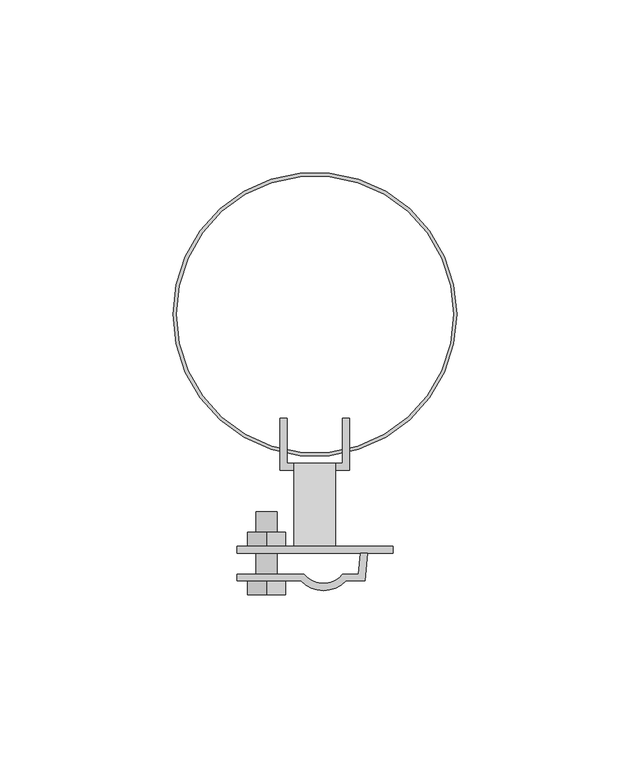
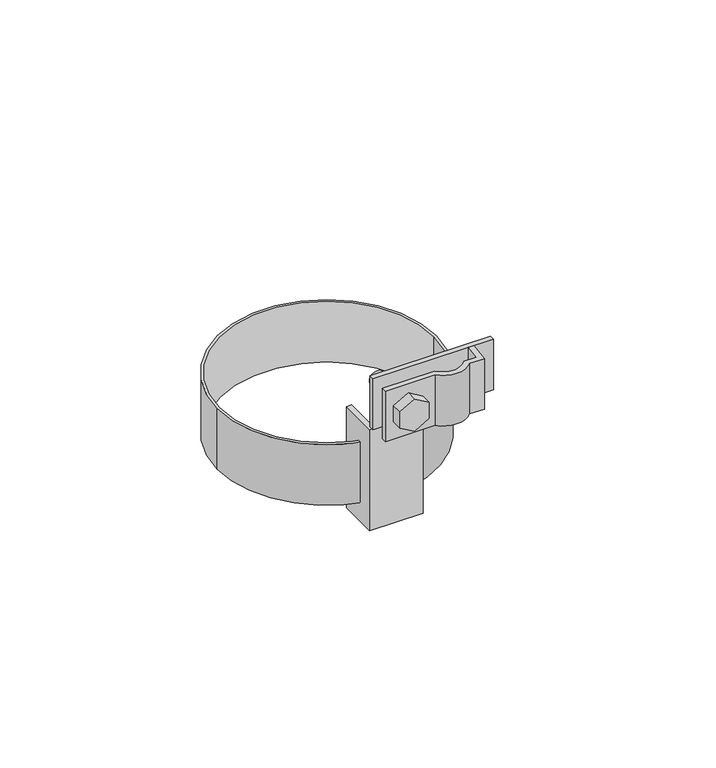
"""IFC4 building model written with IfcOpenShell, lengths in millimetres: proxy geometry, КНС_ХомутНаМеталлическуюТрубу_DKC : NG3002CU_Медь_D20-80."""

import ifcopenshell
import ifcopenshell.guid

model = None  # the IFC model being written
_history = None  # IfcOwnerHistory: only IFC2X3 demands one
_inside = {}  # id of a spatial element -> (the spatial element, [elements in it])
_under = {}  # id of a project, library or spatial element -> (it, [spatial elements below it])
_declared = {}  # id of a project -> (the project, [libraries it declares])
_typed = {}  # id of a type object -> (the type object, [elements of that type])
_made_of = {}  # id of a material, layer set ... -> (it, [elements and type objects made of it])


def new_model(schema):
    """Start an empty IFC model of exactly this schema.

    Asked for "IFC4X3", IfcOpenShell would pick the latest addendum, in which some entities
    have other attributes; the version numbers below select the first issue.
    IFC2X3 requires an IfcOwnerHistory on every rooted entity: one is made here for all.
    """
    global model, _history
    if schema == "IFC4X3":
        model = ifcopenshell.file(schema_version=(4, 3, 0, 0))
    else:
        model = ifcopenshell.file(schema=schema)
    _inside.clear()
    _under.clear()
    _declared.clear()
    _typed.clear()
    _made_of.clear()
    _history = None
    if model.schema == "IFC2X3":
        org = make("IfcOrganization", Name="unknown")
        user = make(
            "IfcPersonAndOrganization",
            ThePerson=make("IfcPerson", FamilyName="unknown"),
            TheOrganization=org,
        )
        app = make(
            "IfcApplication",
            ApplicationDeveloper=org,
            Version="unknown",
            ApplicationFullName="unknown",
            ApplicationIdentifier="unknown",
        )
        _history = make(
            "IfcOwnerHistory",
            OwningUser=user,
            OwningApplication=app,
            ChangeAction="ADDED",
            CreationDate=0,
        )
    return model


def make(cls, **values):
    """One entity of the class cls with the attributes given. An attribute that is None is left unset."""
    return model.create_entity(
        cls, **{name: value for name, value in values.items() if value is not None}
    )


def rooted(cls, **values):
    """An entity with a GlobalId (a new one), such as an element, a storey or a relation."""
    return make(cls, GlobalId=ifcopenshell.guid.new(), OwnerHistory=_history, **values)


def si_unit(unit_type, name, prefix=None):
    """IfcSIUnit, for example si_unit("LENGTHUNIT", "METRE", prefix="MILLI")."""
    return make("IfcSIUnit", UnitType=unit_type, Prefix=prefix, Name=name)


def assignment(units):
    """IfcUnitAssignment: the units of a project."""
    return None if units is None else make("IfcUnitAssignment", Units=units)


def point(xyz):
    """IfcCartesianPoint."""
    return None if xyz is None else make("IfcCartesianPoint", Coordinates=xyz)


def direction(xyz):
    """IfcDirection."""
    return None if xyz is None else make("IfcDirection", DirectionRatios=xyz)


def frame(location, z_axis=None, x_axis=None):
    """IfcAxis2Placement3D, a coordinate frame: its origin and axes. An axis left out is left unset."""
    return make(
        "IfcAxis2Placement3D",
        Location=point(location),
        Axis=direction(z_axis),
        RefDirection=direction(x_axis),
    )


def frame_2d(location, x_axis=None):
    """IfcAxis2Placement2D, a coordinate frame in the plane: its origin and x axis."""
    return make(
        "IfcAxis2Placement2D", Location=point(location), RefDirection=direction(x_axis)
    )


def origin():
    """The frame at (0, 0, 0) with its axes left unset."""
    return frame((0.0, 0.0, 0.0))


def origin_2d():
    """The frame at (0, 0) in the plane with its x axis left unset."""
    return frame_2d((0.0, 0.0))


def place(relative_to, where):
    """IfcLocalPlacement: puts the frame where relative to a parent placement (None: the world)."""
    return make(
        "IfcLocalPlacement", PlacementRelTo=relative_to, RelativePlacement=where
    )


def context(
    kind, dimensions, precision=None, world=None, true_north=None, identifier=None
):
    """IfcGeometricRepresentationContext, for example the 3D "Model" context."""
    return make(
        "IfcGeometricRepresentationContext",
        ContextIdentifier=identifier,
        ContextType=kind,
        CoordinateSpaceDimension=dimensions,
        Precision=precision,
        WorldCoordinateSystem=world,
        TrueNorth=true_north,
    )


def project(units=None, contexts=None):
    """IfcProject with its units and contexts."""
    return rooted(
        "IfcProject",
        Name="project",
        RepresentationContexts=contexts,
        UnitsInContext=assignment(units),
    )


def spatial(cls, under=None, at=None, **own):
    """A site, building, storey or space (cls), placed at a placement, below another one or the project."""
    s = rooted(cls, ObjectPlacement=at, **own)
    if under is not None:
        _under.setdefault(under.id(), (under, []))[1].append(s)
    return s


def polyline(points):
    """IfcPolyline through the points."""
    return make("IfcPolyline", Points=[point(p) for p in points])


def circle_curve(where, radius):
    """IfcCircle in the frame where."""
    return make("IfcCircle", Position=where, Radius=radius)


def trimmed(basis, trim1, trim2, sense, master):
    """IfcTrimmedCurve: the piece of a basis curve between two trims."""
    return make(
        "IfcTrimmedCurve",
        BasisCurve=basis,
        Trim1=trim1,
        Trim2=trim2,
        SenseAgreement=sense,
        MasterRepresentation=master,
    )


def segment(curve, same_sense, transition):
    """IfcCompositeCurveSegment."""
    return make(
        "IfcCompositeCurveSegment",
        Transition=transition,
        SameSense=same_sense,
        ParentCurve=curve,
    )


def composite_curve(segments, self_intersect=None):
    """IfcCompositeCurve: segments joined end to end."""
    return make("IfcCompositeCurve", Segments=segments, SelfIntersect=self_intersect)


def outline(outer, holes=None, kind="AREA"):
    """IfcArbitraryClosedProfileDef: a profile drawn as a closed curve; with holes, ...WithVoids."""
    if holes is None:
        return make("IfcArbitraryClosedProfileDef", ProfileType=kind, OuterCurve=outer)
    return make(
        "IfcArbitraryProfileDefWithVoids",
        ProfileType=kind,
        OuterCurve=outer,
        InnerCurves=holes,
    )


def extrude(swept, where, along, depth):
    """IfcExtrudedAreaSolid: the profile swept, set in the frame where, extruded along a direction by depth."""
    return make(
        "IfcExtrudedAreaSolid",
        SweptArea=swept,
        Position=where,
        ExtrudedDirection=direction(along),
        Depth=depth,
    )


def shape(context_of_items, identifier, shape_type, items):
    """IfcShapeRepresentation: the items that make up one representation, for example the "Body"."""
    return make(
        "IfcShapeRepresentation",
        ContextOfItems=context_of_items,
        RepresentationIdentifier=identifier,
        RepresentationType=shape_type,
        Items=items,
    )


def source(mapping_origin, context_of_items, identifier, shape_type, items):
    """IfcRepresentationMap: a shape defined once, which mapped items show again and again."""
    return make(
        "IfcRepresentationMap",
        MappingOrigin=mapping_origin,
        MappedRepresentation=shape(context_of_items, identifier, shape_type, items),
    )


def transform(
    local_origin,
    x_axis=None,
    y_axis=None,
    z_axis=None,
    scale=None,
    scale2=None,
    scale3=None,
    uniform=True,
):
    """IfcCartesianTransformationOperator3D, or its non-uniform kind. x_axis, y_axis, z_axis: its Axis1, 2, 3."""
    if uniform:
        return make(
            "IfcCartesianTransformationOperator3D",
            Axis1=direction(x_axis),
            Axis2=direction(y_axis),
            LocalOrigin=point(local_origin),
            Scale=scale,
            Axis3=direction(z_axis),
        )
    return make(
        "IfcCartesianTransformationOperator3DnonUniform",
        Axis1=direction(x_axis),
        Axis2=direction(y_axis),
        LocalOrigin=point(local_origin),
        Scale=scale,
        Axis3=direction(z_axis),
        Scale2=scale2,
        Scale3=scale3,
    )


def mapped(mapping_source, mapping_target):
    """IfcMappedItem: shows the shape of a source again, moved by a transform."""
    return make(
        "IfcMappedItem", MappingSource=mapping_source, MappingTarget=mapping_target
    )


def made_of(thing, what):
    """Note that an element or type object is made of a material, layer set ...; save() writes the relation."""
    if what is not None:
        _made_of.setdefault(what.id(), (what, []))[1].append(thing)
    return thing


def element(
    cls,
    number,
    at=None,
    inside=None,
    cuts=None,
    type_object=None,
    material=None,
    context=None,
    identifier="Body",
    shape_type=None,
    held_by="IfcProductDefinitionShape",
    body=None,
    shapes=None,
    **own,
):
    """One element of the class cls, such as IfcWall. Its Tag is "e" and its number.

    at: its placement. inside: the storey or other place that contains it. cuts: it is an
    opening in that element (IfcRelVoidsElement). A single representation is given by context,
    identifier, shape_type and body (its items); several are given by shapes. held_by: the class
    of the entity that holds the representations. save() writes the other relations.
    """
    e = rooted(cls, Tag="e%d" % number, ObjectPlacement=at, **own)
    if body is not None:
        shapes = [shape(context, identifier, shape_type, body)]
    if shapes is not None:
        e.Representation = make(held_by, Representations=shapes)
    if inside is not None:
        _inside.setdefault(inside.id(), (inside, []))[1].append(e)
    if cuts is not None:
        rooted(
            "IfcRelVoidsElement", RelatingBuildingElement=cuts, RelatedOpeningElement=e
        )
    if type_object is not None:
        _typed.setdefault(type_object.id(), (type_object, []))[1].append(e)
    return made_of(e, material)


def aggregate(whole, parts):
    """IfcRelAggregates: a whole, such as a stair, and the parts it consists of."""
    return rooted("IfcRelAggregates", RelatingObject=whole, RelatedObjects=parts)


def save(model, path):
    """Write the relations noted so far, then the file.

    IfcRelAggregates (storeys below a building ...), IfcRelContainedInSpatialStructure (elements
    in a storey), IfcRelDefinesByType, IfcRelAssociatesMaterial and IfcRelDeclares: one each for
    every whole, place, type object, material and project.
    """
    for whole, parts in _under.values():
        aggregate(whole, parts)
    for where, things in _inside.values():
        rooted(
            "IfcRelContainedInSpatialStructure",
            RelatedElements=things,
            RelatingStructure=where,
        )
    for kind, things in _typed.values():
        rooted("IfcRelDefinesByType", RelatedObjects=things, RelatingType=kind)
    for what, things in _made_of.values():
        rooted("IfcRelAssociatesMaterial", RelatedObjects=things, RelatingMaterial=what)
    for by, libraries in _declared.values():
        rooted("IfcRelDeclares", RelatingContext=by, RelatedDefinitions=libraries)
    model.write(path)


def security_devices_9581dde5(model_context):
    return source(origin(), model_context, "Body", "SweptSolid", [
        extrude(outline(polyline([(55.3352097, -13.9621193), (52.1676048, -19.4485719), (45.8323952, -19.4485719), (42.6647903, -13.9621193), (45.8323952, -8.4756668), (52.1676048, -8.4756668), (55.3352097, -13.9621193)])), frame((0.0, -67.0, 0.0), z_axis=(0.0, 1.0, 0.0), x_axis=(0.0, 0.0, 1.0)), (0.0, 0.0, 1.0), 4.0),
        extrude(outline(composite_curve([segment(trimmed(circle_curve(frame_2d((49.0, -13.9621193)), 3.0), [point((49.0, -16.9621193))], [point((49.0, -10.9621193))], False, "CARTESIAN"), True, "CONTINUOUS"), segment(trimmed(circle_curve(frame_2d((49.0, -13.9621193)), 3.0), [point((49.0, -10.9621193))], [point((49.0, -16.9621193))], False, "CARTESIAN"), True, "CONTINUOUS")], self_intersect=False)), frame((0.0, -75.0, 0.0), z_axis=(0.0, 1.0, 0.0), x_axis=(0.0, 0.0, 1.0)), (0.0, 0.0, 1.0), 18.0),
        extrude(outline(polyline([(55.3352097, -13.9621193), (52.1676048, -19.4485719), (45.8323952, -19.4485719), (42.6647903, -13.9621193), (45.8323952, -8.4756668), (52.1676048, -8.4756668), (55.3352097, -13.9621193)])), frame((0.0, -81.0, 0.0), z_axis=(0.0, 1.0, 0.0), x_axis=(0.0, 0.0, 1.0)), (0.0, 0.0, 1.0), 4.0),
        extrude(outline(composite_curve([segment(trimmed(circle_curve(frame_2d((2.48425, -70.7586458)), 7.0), [point((-3.0844945, -75.0))], [point((8.0529944, -75.0))], True, "CARTESIAN"), True, "CONTINUOUS"), segment(polyline([(8.0529944, -75.0), (12.6673377, -75.0), (13.1922696, -69.0), (15.1999093, -69.0), (14.5, -77.0), (8.9684999, -77.0)]), True, "CONTINUOUS"), segment(trimmed(circle_curve(frame_2d((2.48425, -70.7586458)), 9.0), [point((8.9684999, -77.0))], [point((-4.0, -77.0))], False, "CARTESIAN"), True, "CONTINUOUS"), segment(polyline([(-4.0, -77.0), (-22.5, -77.0), (-22.5, -75.0), (-3.0844945, -75.0)]), True, "CONTINUOUS")], self_intersect=False)), frame((0.0, 0.0, 39.0), z_axis=(0.0, 0.0, 1.0), x_axis=(1.0, 0.0, 0.0)), (0.0, 0.0, 1.0), 20.0),
        extrude(outline(polyline([(-69.0, 39.0), (-67.0, 39.0), (-43.0058176, 20.0), (-45.0058176, 20.0), (-69.0, 39.0)])), frame((-6.0, 0.0, 0.0), z_axis=(1.0, 0.0, 0.0), x_axis=(0.0, 1.0, 0.0)), (0.0, 0.0, 1.0), 12.0),
        extrude(outline(polyline([(-8.0, -30.0), (-8.0, -43.0), (8.0, -43.0), (8.0, -30.0), (10.0, -30.0), (10.0, -45.0), (-10.0, -45.0), (-10.0, -30.0), (-8.0, -30.0)])), frame((0.0, 0.0, -20.0), z_axis=(0.0, 0.0, 1.0), x_axis=(1.0, 0.0, 0.0)), (0.0, 0.0, 1.0), 40.0),
        extrude(outline(polyline([(22.5, -69.0), (-22.5, -69.0), (-22.5, -67.0), (22.5, -67.0), (22.5, -69.0)])), frame((0.0, 0.0, 39.0), z_axis=(0.0, 0.0, 1.0), x_axis=(1.0, 0.0, 0.0)), (0.0, 0.0, 1.0), 20.0),
        extrude(outline(composite_curve([segment(trimmed(circle_curve(origin_2d(), 41.0), [point((-41.0, 0.0))], [point((41.0, 0.0))], False, "CARTESIAN"), True, "CONTINUOUS"), segment(trimmed(circle_curve(origin_2d(), 41.0), [point((41.0, 0.0))], [point((-41.0, 0.0))], False, "CARTESIAN"), True, "CONTINUOUS")], self_intersect=False), holes=[composite_curve([segment(trimmed(circle_curve(origin_2d(), 40.0), [point((-40.0, 0.0))], [point((40.0, 0.0))], True, "CARTESIAN"), True, "CONTINUOUS"), segment(trimmed(circle_curve(origin_2d(), 40.0), [point((40.0, 0.0))], [point((-40.0, 0.0))], True, "CARTESIAN"), True, "CONTINUOUS")], self_intersect=False)]), frame((0.0, 0.0, -12.0), z_axis=(0.0, 0.0, 1.0), x_axis=(1.0, 0.0, 0.0)), (0.0, 0.0, 1.0), 24.0),
    ])


if __name__ == "__main__":
    model = new_model("IFC4")
    model_context = context("Model", 3, world=origin())
    ifc_project = project(units=[si_unit("LENGTHUNIT", "METRE", prefix="MILLI")], contexts=[model_context])
    site = spatial("IfcSite", under=ifc_project)
    building = spatial("IfcBuilding", under=site)
    placement = place(None, origin())
    security_devices_shape = security_devices_9581dde5(model_context)
    element("IfcBuildingElementProxy", 1, Name="КНС_ХомутНаМеталлическуюТрубу_DKC : NG3002CU_Медь_D20-80", ObjectType="КНС_ХомутНаМеталлическуюТрубу_DKC : NG3002CU_Медь_D20-80", at=placement, inside=building, context=model_context, shape_type="MappedRepresentation", body=[
        mapped(security_devices_shape, transform((0.0, 0.0, 0.0), x_axis=(1.0, 0.0, 0.0), y_axis=(0.0, 1.0, 0.0), z_axis=(0.0, 0.0, 1.0))),
    ])
    save(model, "model.ifc")
